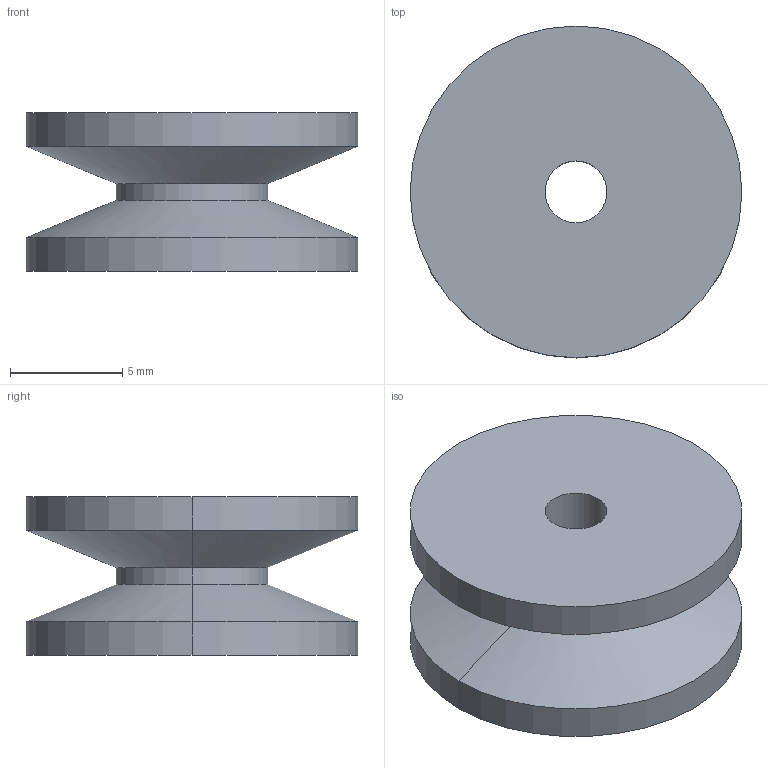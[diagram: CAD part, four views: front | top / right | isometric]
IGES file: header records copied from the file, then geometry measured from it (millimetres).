
Start section:  PTC IGES file: pulleydremelgear.igs
Global section: file name: pulleydremelgear.igs; native system: Creo Parametric by Parametric Technology Corporation; preprocessor: 2012130; author: GOC; organization: Unknown; date: 20141104.224225; units: millimetre
Bounding box: 14.75 x 14.75 x 7.06 mm (x, y, z)
Volume: 812.1 mm3; surface area: 838.3 mm2
Topology: 1 solids, 1 shells, 14 faces, 28 edges, 16 vertices
Faces by surface type: revolution 12, bspline 2
